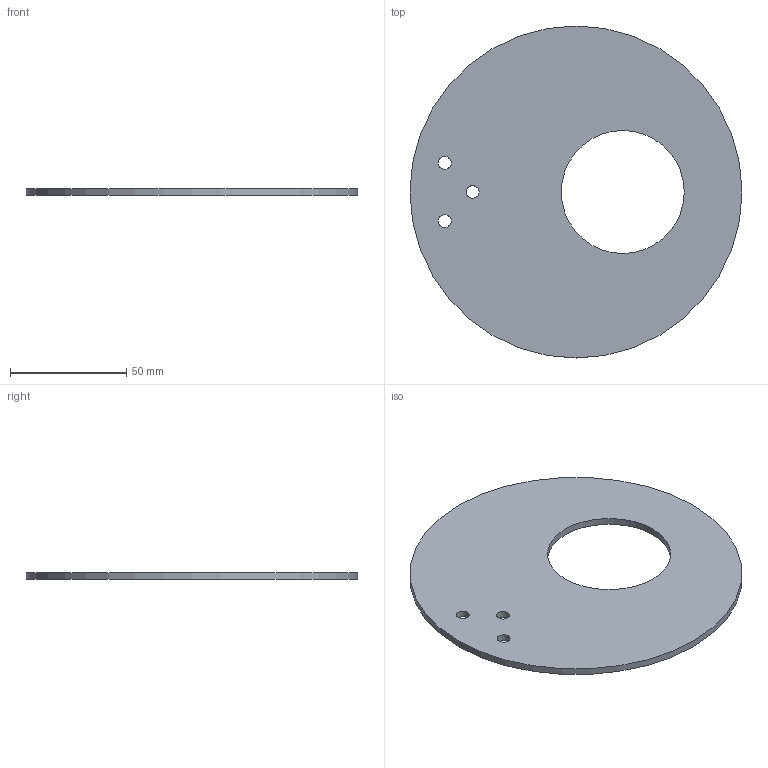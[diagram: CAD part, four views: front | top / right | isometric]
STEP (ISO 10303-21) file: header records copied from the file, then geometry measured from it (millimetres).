
FILE_DESCRIPTION( ( 'Unknown' ), '1' );
FILE_NAME( 'F:/navkite transat/construction/2016/3D ET ASSEMBLAGES/self tailing/WI 16.stp', 'Unknown', ( 'GMA' ), ( 'Unknown' ), 'XStep 1.0', 'Unknown', ' ' );
FILE_SCHEMA( ( 'automotive_design' ) );
Length unit declared in the file: millimetre
Products named in the file (1): 1
Bounding box: 143 x 143 x 3 mm (x, y, z)
Volume: 41349.4 mm3; surface area: 29569.1 mm2
Topology: 1 solids, 1 shells, 7 faces, 18 edges, 13 vertices
Faces by surface type: cylinder 5, plane 2
Full cylindrical faces by diameter (mm): 5.5 x3, 53 x1, 143 x1
Entity records: 262 total; most frequent: DIRECTION 36, CARTESIAN_POINT 28, EDGE_LOOP 20, ORIENTED_EDGE 20, AXIS2_PLACEMENT_3D 18, FACE_OUTER_BOUND 12, EDGE_CURVE 10, VERTEX_POINT 10
